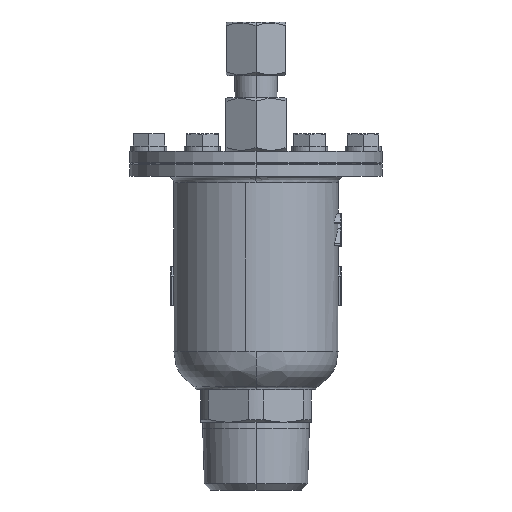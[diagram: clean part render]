
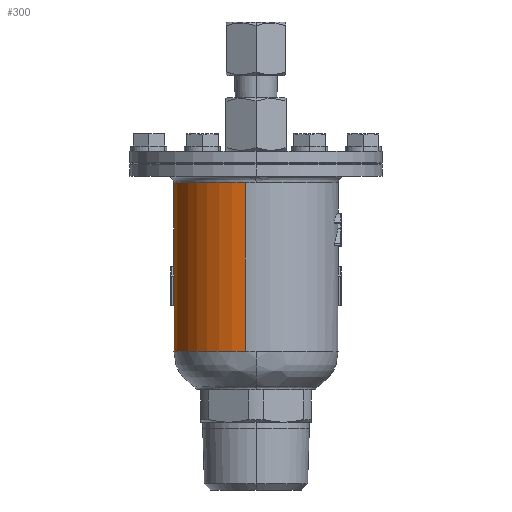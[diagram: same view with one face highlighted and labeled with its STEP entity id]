
A CAD part, left-side view. The second image highlights one B-rep face of the part: STEP entity #300.
In plain terms, the highlighted cylindrical face has radius 26.1 mm (diameter 52.2 mm), a partial arc.
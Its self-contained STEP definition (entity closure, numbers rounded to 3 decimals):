
#300=ADVANCED_FACE('',(#2934,#2935),#2933,.T.);
#2933=CYLINDRICAL_SURFACE('',#5285,26.1);
#2934=FACE_OUTER_BOUND('',#5286,.T.);
#2935=FACE_BOUND('',#5287,.T.);
#5282=CARTESIAN_POINT('',(0.,0.,0.));
#5283=DIRECTION('',(0.,0.,1.));
#5284=DIRECTION('',(-0.991,0.131,0.));
#5285=AXIS2_PLACEMENT_3D('',#5282,#5283,#5284);
#5286=EDGE_LOOP('',(#6841,#6842,#6843,#6844,#6845,#6846));
#5287=EDGE_LOOP('',(#6847,#6848,#6849,#6850,#6851,#6852,#6853));
#6841=ORIENTED_EDGE('',*,*,#7633,.F.);
#6842=ORIENTED_EDGE('',*,*,#7634,.F.);
#6843=ORIENTED_EDGE('',*,*,#7629,.T.);
#6844=ORIENTED_EDGE('',*,*,#7635,.T.);
#6845=ORIENTED_EDGE('',*,*,#7636,.T.);
#6846=ORIENTED_EDGE('',*,*,#7632,.F.);
#6847=ORIENTED_EDGE('',*,*,#7143,.T.);
#6848=ORIENTED_EDGE('',*,*,#7145,.T.);
#6849=ORIENTED_EDGE('',*,*,#7128,.T.);
#6850=ORIENTED_EDGE('',*,*,#7131,.T.);
#6851=ORIENTED_EDGE('',*,*,#7134,.T.);
#6852=ORIENTED_EDGE('',*,*,#7137,.T.);
#6853=ORIENTED_EDGE('',*,*,#7140,.T.);
#7128=EDGE_CURVE('',#8851,#8866,#8873,.T.);
#7131=EDGE_CURVE('',#8866,#8886,#8893,.T.);
#7134=EDGE_CURVE('',#8886,#8906,#8913,.T.);
#7137=EDGE_CURVE('',#8906,#8926,#8933,.T.);
#7140=EDGE_CURVE('',#8926,#8946,#8953,.T.);
#7143=EDGE_CURVE('',#8946,#8966,#8973,.T.);
#7145=EDGE_CURVE('',#8966,#8851,#8985,.T.);
#7629=EDGE_CURVE('',#12157,#12150,#12158,.T.);
#7632=EDGE_CURVE('',#12171,#12142,#12178,.T.);
#7633=EDGE_CURVE('',#12184,#12171,#12185,.T.);
#7634=EDGE_CURVE('',#12157,#12184,#12191,.T.);
#7635=EDGE_CURVE('',#12150,#12197,#12198,.T.);
#7636=EDGE_CURVE('',#12197,#12142,#12204,.T.);
#8851=VERTEX_POINT('',#13152);
#8866=VERTEX_POINT('',#13161);
#8873=(BOUNDED_CURVE() B_SPLINE_CURVE(2,(#13165,#13166,#13167),.UNSPECIFIED.,.F.,.F.) B_SPLINE_CURVE_WITH_KNOTS((3,3),(4.712,4.772),.UNSPECIFIED.) CURVE() GEOMETRIC_REPRESENTATION_ITEM() RATIONAL_B_SPLINE_CURVE((1.,1.,1.)) REPRESENTATION_ITEM('') );
#8886=VERTEX_POINT('',#13172);
#8893=CIRCLE('',#13179,26.1);
#8906=VERTEX_POINT('',#13184);
#8913=LINE('',#13188,#13189);
#8926=VERTEX_POINT('',#13195);
#8933=CIRCLE('',#13202,26.1);
#8946=VERTEX_POINT('',#13207);
#8953=LINE('',#13211,#13212);
#8966=VERTEX_POINT('',#13218);
#8973=CIRCLE('',#13225,26.1);
#8985=(BOUNDED_CURVE() B_SPLINE_CURVE(2,(#13229,#13230,#13231),.UNSPECIFIED.,.F.,.F.) B_SPLINE_CURVE_WITH_KNOTS((3,3),(1.511,1.571),.UNSPECIFIED.) CURVE() GEOMETRIC_REPRESENTATION_ITEM() RATIONAL_B_SPLINE_CURVE((1.,1.,1.)) REPRESENTATION_ITEM('') );
#12142=VERTEX_POINT('',#15941);
#12150=VERTEX_POINT('',#15947);
#12157=VERTEX_POINT('',#15952);
#12158=(BOUNDED_CURVE() B_SPLINE_CURVE(1,(#15953,#15954),.UNSPECIFIED.,.F.,.F.) B_SPLINE_CURVE_WITH_KNOTS((2,2),(0.083,0.917),.UNSPECIFIED.) CURVE() GEOMETRIC_REPRESENTATION_ITEM() RATIONAL_B_SPLINE_CURVE((1.,1.)) REPRESENTATION_ITEM('') );
#12171=VERTEX_POINT('',#15960);
#12178=(BOUNDED_CURVE() B_SPLINE_CURVE(1,(#15965,#15966),.UNSPECIFIED.,.F.,.F.) B_SPLINE_CURVE_WITH_KNOTS((2,2),(0.083,0.917),.UNSPECIFIED.) CURVE() GEOMETRIC_REPRESENTATION_ITEM() RATIONAL_B_SPLINE_CURVE((0.75,0.75)) REPRESENTATION_ITEM('') );
#12184=VERTEX_POINT('',#15967);
#12185=CIRCLE('',#15971,26.1);
#12191=CIRCLE('',#15975,26.1);
#12197=VERTEX_POINT('',#15976);
#12198=CIRCLE('',#15980,26.1);
#12204=CIRCLE('',#15984,26.1);
#13152=CARTESIAN_POINT('',(0.,26.1,71.005));
#13161=CARTESIAN_POINT('',(-1.562,26.053,67.88));
#13165=CARTESIAN_POINT('',(0.,26.1,71.005));
#13166=CARTESIAN_POINT('',(-0.782,26.1,69.441));
#13167=CARTESIAN_POINT('',(-1.562,26.053,67.88));
#13172=CARTESIAN_POINT('',(-0.625,26.093,67.88));
#13176=CARTESIAN_POINT('',(0.,0.,67.88));
#13177=DIRECTION('',(0.,0.,-1.));
#13178=DIRECTION('',(1.,0.,0.));
#13179=AXIS2_PLACEMENT_3D('',#13176,#13177,#13178);
#13184=CARTESIAN_POINT('',(-0.625,26.093,58.505));
#13188=CARTESIAN_POINT('',(-0.625,26.093,67.88));
#13189=VECTOR('',#13190,9.375);
#13190=DIRECTION('',(0.,0.,-1.));
#13195=CARTESIAN_POINT('',(0.625,26.093,58.505));
#13199=CARTESIAN_POINT('',(0.,0.,58.505));
#13200=DIRECTION('',(0.,0.,-1.));
#13201=DIRECTION('',(1.,0.,0.));
#13202=AXIS2_PLACEMENT_3D('',#13199,#13200,#13201);
#13207=CARTESIAN_POINT('',(0.625,26.093,67.88));
#13211=CARTESIAN_POINT('',(0.625,26.093,58.505));
#13212=VECTOR('',#13213,9.375);
#13213=DIRECTION('',(0.,0.,1.));
#13218=CARTESIAN_POINT('',(1.562,26.053,67.88));
#13222=CARTESIAN_POINT('',(0.,0.,67.88));
#13223=DIRECTION('',(0.,0.,-1.));
#13224=DIRECTION('',(1.,0.,0.));
#13225=AXIS2_PLACEMENT_3D('',#13222,#13223,#13224);
#13229=CARTESIAN_POINT('',(1.562,26.053,67.88));
#13230=CARTESIAN_POINT('',(0.782,26.1,69.441));
#13231=CARTESIAN_POINT('',(0.,26.1,71.005));
#15941=CARTESIAN_POINT('',(25.876,-3.409,97.5));
#15947=CARTESIAN_POINT('',(-25.877,3.407,97.5));
#15952=CARTESIAN_POINT('',(-25.877,3.407,44.));
#15953=CARTESIAN_POINT('',(-25.877,3.407,44.));
#15954=CARTESIAN_POINT('',(-25.877,3.407,97.5));
#15960=CARTESIAN_POINT('',(25.876,-3.409,44.));
#15965=CARTESIAN_POINT('',(25.877,-3.407,44.));
#15966=CARTESIAN_POINT('',(25.877,-3.407,97.5));
#15967=CARTESIAN_POINT('',(26.1,0.,44.));
#15968=CARTESIAN_POINT('',(0.,0.,44.));
#15969=DIRECTION('',(0.,0.,-1.));
#15970=DIRECTION('',(-1.,0.,0.));
#15971=AXIS2_PLACEMENT_3D('',#15968,#15969,#15970);
#15972=CARTESIAN_POINT('',(0.,0.,44.));
#15973=DIRECTION('',(0.,0.,-1.));
#15974=DIRECTION('',(-1.,0.,0.));
#15975=AXIS2_PLACEMENT_3D('',#15972,#15973,#15974);
#15976=CARTESIAN_POINT('',(26.1,0.,97.5));
#15977=CARTESIAN_POINT('',(0.,0.,97.5));
#15978=DIRECTION('',(0.,0.,-1.));
#15979=DIRECTION('',(-1.,0.,0.));
#15980=AXIS2_PLACEMENT_3D('',#15977,#15978,#15979);
#15981=CARTESIAN_POINT('',(0.,0.,97.5));
#15982=DIRECTION('',(0.,0.,-1.));
#15983=DIRECTION('',(-1.,0.,0.));
#15984=AXIS2_PLACEMENT_3D('',#15981,#15982,#15983);
